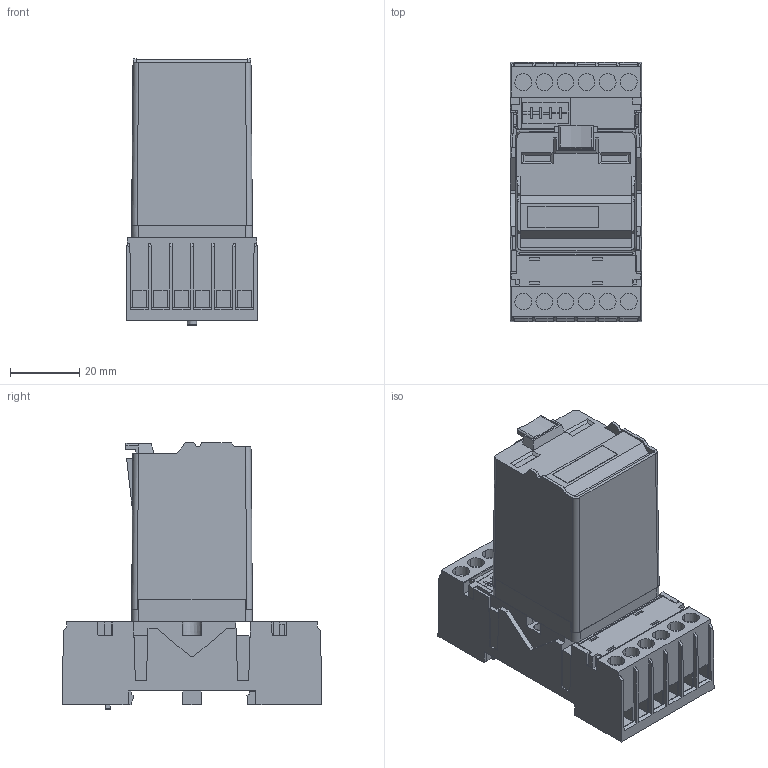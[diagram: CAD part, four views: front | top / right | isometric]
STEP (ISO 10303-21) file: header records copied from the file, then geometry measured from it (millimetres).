
FILE_DESCRIPTION (( 'STEP AP214' ), '1' );
FILE_NAME ('C3_plus_S3-M1.STEP', '2024-04-04T07:39:19', ( '' ), ( '' ), 'SwSTEP 2.0', 'SolidWorks 2022', '' );
FILE_SCHEMA (( 'AUTOMOTIVE_DESIGN' ));
Length unit declared in the file: millimetre
Products named in the file (1): C3_plus_S3-M1
Bounding box: 38 x 75 x 77.15 mm (x, y, z)
Volume: 114305.7 mm3; surface area: 29551.8 mm2
Topology: 1 solids, 51 shells, 1321 faces, 3515 edges, 2316 vertices
Faces by surface type: plane 1104, cylinder 171, cone 44, bspline 2
Entity records: 54695 total; most frequent: CARTESIAN_POINT 8219, ORIENTED_EDGE 7010, DIRECTION 6167, EDGE_CURVE 3505, VECTOR 2843, LINE 2843, VERTEX_POINT 2311, AXIS2_PLACEMENT_3D 1662
